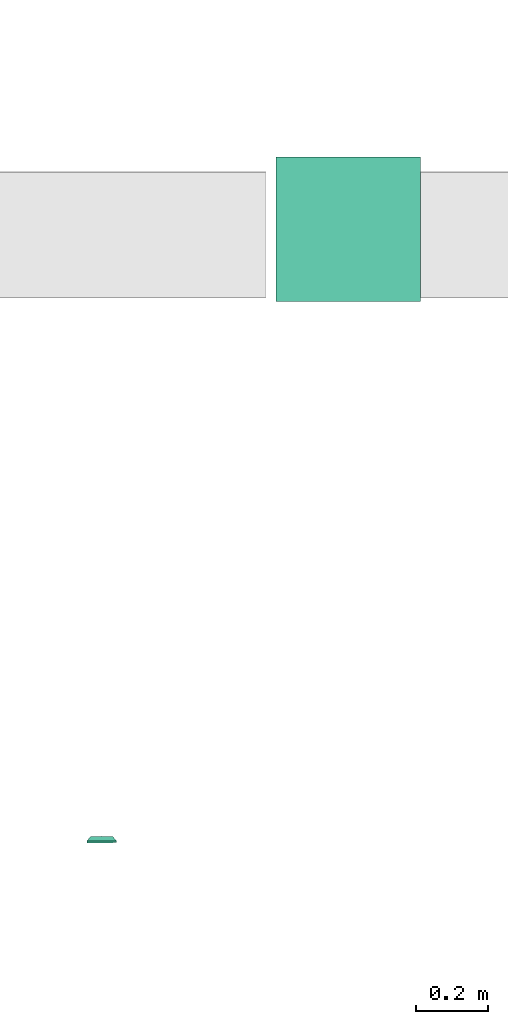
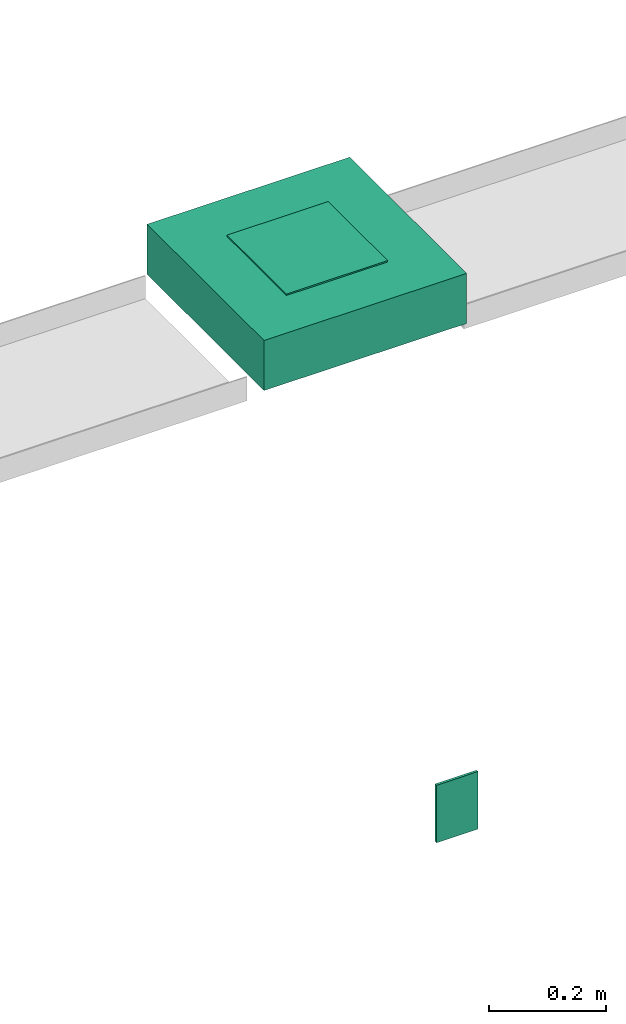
# One storey, part 6 of 24: 2 flow terminals.
"""IFC2X3 building model written with IfcOpenShell, lengths in millimetres."""

from ifc_helpers import new_model, entity, si_unit, converted_unit, derived_unit, direction, frame, origin_with_axes, place, context, subcontext, project, spatial, open_shell, surface_model, source, transform, mapped, type_object, element, save


model = new_model("IFC2X3")

# Units and contexts
model_context = context("Model", 3, precision=0.01, world=frame((0.0, 4.29681676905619e-09, 0.0)), true_north=direction((4.01073788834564e-13, 1.0)))
plan_context = context("Plan", 3, precision=0.01, world=frame((0.0, 4.29681676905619e-09, 0.0)), true_north=direction((4.01073788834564e-13, 1.0)))
body_context = subcontext(model_context, "Body", "Model", "MODEL_VIEW")
ifc_project = project(units=[converted_unit("PLANEANGLEUNIT", "DEGREE", entity("IfcPositiveLengthMeasure", 0.0174532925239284), si_unit("PLANEANGLEUNIT", "RADIAN"), dimensions=[0, 0, 0, 0, 0, 0, 0]), si_unit("AREAUNIT", "SQUARE_METRE"), si_unit("LENGTHUNIT", "METRE", prefix="MILLI"), si_unit("MASSUNIT", "GRAM", prefix="KILO"), si_unit("POWERUNIT", "WATT"), si_unit("PRESSUREUNIT", "PASCAL"), si_unit("FORCEUNIT", "NEWTON", prefix="KILO"), si_unit("ELECTRICVOLTAGEUNIT", "VOLT"), si_unit("ELECTRICCURRENTUNIT", "AMPERE"), si_unit("THERMODYNAMICTEMPERATUREUNIT", "DEGREE_CELSIUS"), si_unit("TIMEUNIT", "SECOND"), si_unit("VOLUMEUNIT", "CUBIC_METRE"), derived_unit("LINEARVELOCITYUNIT", [(si_unit("LENGTHUNIT", "METRE"), 1), (si_unit("TIMEUNIT", "SECOND"), -1)]), derived_unit("VOLUMETRICFLOWRATEUNIT", [(si_unit("VOLUMEUNIT", "CUBIC_METRE"), 1), (si_unit("TIMEUNIT", "SECOND"), -1)]), derived_unit("THERMALTRANSMITTANCEUNIT", [(si_unit("POWERUNIT", "WATT"), 1), (si_unit("THERMODYNAMICTEMPERATUREUNIT", "KELVIN"), -1), (si_unit("AREAUNIT", "SQUARE_METRE"), -1)]), derived_unit("SOUNDPRESSUREUNIT", [(si_unit("PRESSUREUNIT", "PASCAL"), 1)])], contexts=[model_context, plan_context])

# Site, building, storey
site_placement = place(None, frame((0.0, -4.29681676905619e-09, 0.0), z_axis=(0.0, 0.0, 1.0), x_axis=(1.0, 0.0, 0.0)))
site = spatial("IfcSite", under=ifc_project, at=site_placement, Name="ENGM", CompositionType="ELEMENT")
building_placement = place(site_placement, frame((0.0, 4.29681676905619e-09, 0.0), z_axis=(0.0, 0.0, 1.0), x_axis=(1.0, 0.0, 0.0)))
building = spatial("IfcBuilding", under=site, at=building_placement, Name="TH", CompositionType="ELEMENT")
storey_placement = place(building_placement, frame((0.0, 0.0, 210200.0), z_axis=(0.0, 0.0, 1.0), x_axis=(1.0, 0.0, 0.0)))
storey = spatial("IfcBuildingStorey", under=building, at=storey_placement, Name="Nivå F - 0,7 m", CompositionType="ELEMENT", Elevation=210200.0)

# Flow terminals
electric_appliance_type = type_object("IfcElectricApplianceType", Name="OTHER-EE-POWER-BALANCED-DUMMY", PredefinedType="NOTDEFINED")
shared_shape_1 = source(origin_with_axes(), body_context, "Body", "SurfaceModel", [
    surface_model("IfcShellBasedSurfaceModel", [(199.96, -199.96, -8.96812), (199.96, 200.0, -8.96812), (-200.0, 200.0, -8.96812), (-200.0, -199.96, -8.96812), (-200.0, -199.96, -108.96812), (-200.0, 200.0, -108.96812), (199.96, -199.96, -108.96812), (199.96, 200.0, -108.96812), (99.91278, -102.96181, -1.48406), (99.91278, 100.0, -1.48406), (-100.0, -102.96181, -1.48406), (-100.0, 100.0, -1.48406), (-100.0, -102.96181, -4.48406), (-100.0, 100.0, -4.48406), (99.91278, 100.0, -4.48406), (99.91278, -102.96181, -4.48406), (199.96, -199.96, -4.48406), (199.96, 200.0, -4.48406), (-200.0, 200.0, -4.48406), (-200.0, -199.96, -4.48406), (-200.0, -199.96, -104.48406), (-200.0, 200.0, -104.48406), (199.96, -199.96, -104.48406), (199.96, 200.0, -104.48406)], [open_shell([[[0, 1, 2]], [[2, 3, 0]], [[4, 5, 6]], [[7, 6, 5]], [[2, 1, 7]], [[7, 5, 2]], [[3, 2, 5]], [[5, 4, 3]], [[0, 3, 4]], [[4, 6, 0]], [[1, 0, 6]], [[6, 7, 1]], [[8, 9, 10]], [[11, 10, 9]], [[12, 13, 14]], [[14, 15, 12]], [[11, 9, 14]], [[14, 13, 11]], [[10, 11, 13]], [[13, 12, 10]], [[8, 10, 12]], [[12, 15, 8]], [[9, 8, 15]], [[15, 14, 9]], [[16, 17, 18]], [[18, 19, 16]], [[20, 21, 22]], [[23, 22, 21]], [[18, 17, 23]], [[23, 21, 18]], [[19, 18, 21]], [[21, 20, 19]], [[16, 19, 20]], [[20, 22, 16]], [[17, 16, 22]], [[22, 23, 17]]])]),
])
flow_terminal_1_placement = place(storey_placement, frame((896507.89, 482161.819, 1.5), z_axis=(0.0, 0.0, 1.0), x_axis=(1.0, 0.0, 0.0)))
element("IfcFlowTerminal", 1, at=flow_terminal_1_placement, inside=storey, type_object=electric_appliance_type, Name="OTHER-EE-POWER-BALANCED-DUMMY", context=body_context, shape_type="MappedRepresentation", body=[
    mapped(shared_shape_1, transform((0.0, 0.0, 0.0), scale=1.0)),
])
outlet_type = type_object("IfcOutletType", Name="Jordet-topolet-2-veis-m_boks", PredefinedType="POWEROUTLET")
shared_shape_2 = source(origin_with_axes(), body_context, "Body", "SurfaceModel", [
    surface_model("IfcShellBasedSurfaceModel", [(-0.5, 17.924, -6.7222), (-0.5, 13.06676, -7.5222), (-0.5, 13.06676, -6.7222), (-0.5, 18.42991, -6.09229), (-0.5, 17.73274, -6.544), (-0.5, 18.9533, -6.99882), (-0.5, 19.0222, -7.5222), (-0.5, 18.75128, -6.5111), (-0.5, 17.50795, -6.41055), (-0.5, 18.0111, -5.77092), (-0.5, 5.0, -6.3), (-0.5, 17.0, -5.5), (-0.5, 17.0, -6.3), (-0.5, 17.25992, -6.32796), (-0.5, 17.52338, -5.56891), (-0.5, 5.0, -5.5), (-0.5, 17.0, -44.5), (-0.5, 5.0, -44.5), (-0.5, 5.0, -43.7), (-0.5, 17.0, -43.7), (-0.5, 17.25471, -43.67288), (-0.5, 17.49801, -43.59276), (-0.5, 18.00498, -44.23072), (-0.5, 17.52021, -44.43151), (-0.5, 17.71899, -43.46321), (-0.5, 18.42125, -43.9113), (-0.5, 17.90774, -43.29004), (-0.5, 13.03378, -43.29004), (-0.5, 13.03378, -42.49005), (-0.5, 18.74067, -43.49502), (-0.5, 18.94147, -43.01026), (-0.5, 19.00995, -42.49005), (0.5, 17.0, -5.5), (0.5, 5.0, -5.5), (0.5, 5.0, -6.3), (0.5, 17.0, -6.3), (0.5, 17.25992, -6.32796), (0.5, 17.50795, -6.41055), (0.5, 18.0111, -5.77092), (0.5, 17.52338, -5.56891), (0.5, 17.73274, -6.544), (0.5, 18.42991, -6.09229), (0.5, 17.924, -6.7222), (0.5, 13.06676, -6.7222), (0.5, 13.06676, -7.5222), (0.5, 18.75128, -6.5111), (0.5, 18.9533, -6.99882), (0.5, 19.0222, -7.5222), (0.5, 17.90774, -43.29004), (0.5, 13.03378, -42.49005), (0.5, 13.03378, -43.29004), (0.5, 18.42125, -43.9113), (0.5, 17.71899, -43.46321), (0.5, 18.94147, -43.01026), (0.5, 19.00995, -42.49005), (0.5, 18.74067, -43.49502), (0.5, 17.49801, -43.59276), (0.5, 18.00498, -44.23072), (0.5, 5.0, -43.7), (0.5, 17.0, -44.5), (0.5, 17.0, -43.7), (0.5, 17.25471, -43.67288), (0.5, 17.52021, -44.43151), (0.5, 5.0, -44.5), (-0.5, 17.90774, 6.70995), (-0.5, 18.74067, 6.50498), (-0.5, 18.42125, 6.0887), (-0.5, 17.71899, 6.53679), (-0.5, 18.00498, 5.76928), (-0.5, 17.49801, 6.40724), (-0.5, 19.00995, 7.50995), (-0.5, 18.94147, 6.98974), (-0.5, 13.03378, 7.50995), (-0.5, 17.52021, 5.56849), (-0.5, 17.0, 5.5), (-0.5, 17.0, 6.3), (-0.5, 17.25471, 6.32711), (-0.5, 5.0, 5.5), (-0.5, 5.0, 6.3), (-0.5, 13.03378, 6.70995), (0.5, 5.0, 6.3), (0.5, 5.0, 5.5), (0.5, 17.0, 6.3), (0.5, 17.0, 5.5), (0.5, 17.25471, 6.32711), (0.5, 17.90774, 6.70995), (0.5, 13.03378, 7.50995), (0.5, 13.03378, 6.70995), (0.5, 17.52021, 5.56849), (0.5, 17.49801, 6.40724), (0.5, 18.00498, 5.76928), (0.5, 17.71899, 6.53679), (0.5, 18.42125, 6.0887), (0.5, 18.74067, 6.50498), (0.5, 18.94147, 6.98974), (0.5, 19.00995, 7.50995), (-0.5, 17.924, 43.2778), (-0.5, 13.06676, 42.4778), (-0.5, 13.06676, 43.2778), (-0.5, 18.42991, 43.90771), (-0.5, 17.73274, 43.456), (-0.5, 18.9533, 43.00118), (-0.5, 19.0222, 42.4778), (-0.5, 18.75128, 43.4889), (-0.5, 17.50795, 43.58945), (-0.5, 18.0111, 44.22908), (-0.5, 17.0, 44.5), (-0.5, 17.0, 43.7), (-0.5, 5.0, 44.5), (-0.5, 17.25992, 43.67204), (-0.5, 17.52338, 44.4311), (-0.5, 5.0, 43.7), (0.5, 5.0, 44.5), (0.5, 17.0, 43.7), (0.5, 17.0, 44.5), (0.5, 5.0, 43.7), (0.5, 17.25992, 43.67204), (0.5, 17.50795, 43.58945), (0.5, 18.0111, 44.22908), (0.5, 17.52338, 44.4311), (0.5, 17.73274, 43.456), (0.5, 18.42991, 43.90771), (0.5, 17.924, 43.2778), (0.5, 13.06676, 43.2778), (0.5, 13.06676, 42.4778), (0.5, 18.75128, 43.4889), (0.5, 18.9533, 43.00118), (0.5, 19.0222, 42.4778), (7.79776, 5.0, -26.27146), (7.45708, 5.0, -25.0), (7.54372, 5.0, -25.65816), (8.72854, 5.0, -27.20224), (8.20188, 5.0, -26.79812), (10.65816, 5.0, -27.45628), (9.34184, 5.0, -27.45628), (8.20188, 5.0, -23.20188), (7.54372, 5.0, -24.34184), (7.79776, 5.0, -23.72854), (9.34184, 5.0, -22.54373), (8.72854, 5.0, -22.79776), (10.0, 5.0, -27.54292), (11.27146, 5.0, -27.20224), (11.79812, 5.0, -26.79812), (12.45628, 5.0, -25.65816), (12.45628, 5.0, -24.34184), (12.20224, 5.0, -26.27146), (12.54292, 5.0, -25.0), (10.0, 5.0, -22.45708), (11.27146, 5.0, -22.79776), (10.65816, 5.0, -22.54373), (11.79812, 5.0, -23.20188), (12.20224, 5.0, -23.72854), (-12.20258, 5.0, -26.27166), (-12.45666, 5.0, -24.34174), (-12.45666, 5.0, -25.65826), (-11.27166, 5.0, -27.20258), (-11.7984, 5.0, -26.7984), (-10.65826, 5.0, -22.54334), (-7.45668, 5.0, -25.0), (-10.65826, 5.0, -27.45666), (-9.34174, 5.0, -27.45666), (-12.20258, 5.0, -23.72834), (-12.54332, 5.0, -25.0), (-11.27166, 5.0, -22.79742), (-11.7984, 5.0, -23.2016), (-10.0, 5.0, -27.54332), (-8.72834, 5.0, -27.20258), (-8.2016, 5.0, -26.7984), (-7.54334, 5.0, -25.65826), (-7.79742, 5.0, -26.27166), (-7.54334, 5.0, -24.34174), (-9.34174, 5.0, -22.54334), (-8.2016, 5.0, -23.2016), (-8.72834, 5.0, -22.79742), (-10.0, 5.0, -22.45668), (-7.79742, 5.0, -23.72834), (12.45628, 5.5, -25.65816), (12.45628, 5.5, -24.34184), (12.54292, 5.5, -25.0), (11.79812, 5.5, -26.79812), (12.20224, 5.5, -26.27146), (11.27146, 5.5, -27.20224), (10.65816, 5.5, -27.45628), (11.79812, 5.5, -23.20188), (12.20224, 5.5, -23.72854), (11.27146, 5.5, -22.79776), (10.0, 5.5, -22.45708), (10.65816, 5.5, -22.54373), (8.72854, 5.5, -27.20224), (9.34184, 5.5, -22.54373), (9.34184, 5.5, -27.45628), (8.20188, 5.5, -23.20188), (7.79776, 5.5, -26.27146), (7.45708, 5.5, -25.0), (8.20188, 5.5, -26.79812), (7.54372, 5.5, -25.65816), (8.72854, 5.5, -22.79776), (7.54372, 5.5, -24.34184), (7.79776, 5.5, -23.72854), (10.0, 5.5, -27.54292), (-8.2016, 5.5, -26.7984), (-7.45668, 5.5, -25.0), (-7.54334, 5.5, -25.65826), (-7.79742, 5.5, -26.27166), (-10.65826, 5.5, -27.45666), (-8.72834, 5.5, -27.20258), (-7.79742, 5.5, -23.72834), (-12.20258, 5.5, -26.27166), (-8.2016, 5.5, -23.2016), (-7.54334, 5.5, -24.34174), (-9.34174, 5.5, -22.54334), (-8.72834, 5.5, -22.79742), (-10.65826, 5.5, -22.54334), (-10.0, 5.5, -22.45668), (-10.0, 5.5, -27.54332), (-9.34174, 5.5, -27.45666), (-11.27166, 5.5, -27.20258), (-11.7984, 5.5, -26.7984), (-12.45666, 5.5, -24.34174), (-12.45666, 5.5, -25.65826), (-11.27166, 5.5, -22.79742), (-12.20258, 5.5, -23.72834), (-11.7984, 5.5, -23.2016), (-12.54332, 5.5, -25.0), (7.85373, 5.0, 23.76085), (7.5217, 5.0, 25.0), (7.60615, 5.0, 24.35857), (8.76085, 5.0, 22.85373), (8.24758, 5.0, 23.24758), (9.35857, 5.0, 22.60615), (10.0, 5.0, 22.5217), (8.24758, 5.0, 26.75242), (7.60615, 5.0, 25.64143), (7.85373, 5.0, 26.23915), (8.76085, 5.0, 27.14627), (10.0, 5.0, 27.4783), (9.35857, 5.0, 27.39385), (11.23915, 5.0, 22.85373), (12.39385, 5.0, 24.35857), (11.75242, 5.0, 23.24758), (11.75242, 5.0, 26.75242), (12.14627, 5.0, 23.76085), (12.4783, 5.0, 25.0), (12.14627, 5.0, 26.23915), (11.23915, 5.0, 27.14627), (10.64143, 5.0, 27.39385), (12.39385, 5.0, 25.64143), (10.64143, 5.0, 22.60615), (-12.12391, 5.0, 23.77376), (-12.45249, 5.0, 25.0), (-12.36892, 5.0, 24.36525), (-11.73417, 5.0, 23.26583), (-8.77376, 5.0, 27.12391), (-10.63475, 5.0, 27.36892), (-11.22624, 5.0, 22.87609), (-10.63475, 5.0, 22.63108), (-7.87609, 5.0, 23.77376), (-12.12391, 5.0, 26.22624), (-12.36892, 5.0, 25.63475), (-11.22624, 5.0, 27.12391), (-11.73417, 5.0, 26.73417), (-10.0, 5.0, 22.54752), (-9.36525, 5.0, 22.63108), (-8.77376, 5.0, 22.87609), (-8.26583, 5.0, 23.26583), (-7.63108, 5.0, 25.63475), (-7.63108, 5.0, 24.36525), (-7.54751, 5.0, 25.0), (-9.36525, 5.0, 27.36892), (-10.0, 5.0, 27.45248), (-8.26583, 5.0, 26.73417), (-7.87609, 5.0, 26.22624), (12.39385, 5.5, 24.35857), (12.14627, 5.5, 26.23915), (12.4783, 5.5, 25.0), (11.75242, 5.5, 23.24758), (12.14627, 5.5, 23.76085), (11.75242, 5.5, 26.75242), (11.23915, 5.5, 22.85373), (8.76085, 5.5, 22.85373), (12.39385, 5.5, 25.64143), (11.23915, 5.5, 27.14627), (10.0, 5.5, 27.4783), (10.64143, 5.5, 27.39385), (10.64143, 5.5, 22.60615), (10.0, 5.5, 22.5217), (9.35857, 5.5, 22.60615), (8.76085, 5.5, 27.14627), (8.24758, 5.5, 26.75242), (7.85373, 5.5, 23.76085), (8.24758, 5.5, 23.24758), (7.5217, 5.5, 25.0), (7.60615, 5.5, 24.35857), (9.35857, 5.5, 27.39385), (7.60615, 5.5, 25.64143), (7.85373, 5.5, 26.23915), (-7.63108, 5.5, 24.36525), (-7.63108, 5.5, 25.63475), (-7.54751, 5.5, 25.0), (-8.26583, 5.5, 23.26583), (-7.87609, 5.5, 23.77376), (-11.22624, 5.5, 22.87609), (-8.77376, 5.5, 22.87609), (-8.26583, 5.5, 26.73417), (-7.87609, 5.5, 26.22624), (-8.77376, 5.5, 27.12391), (-10.0, 5.5, 27.45248), (-9.36525, 5.5, 27.36892), (-10.63475, 5.5, 27.36892), (-10.0, 5.5, 22.54752), (-9.36525, 5.5, 22.63108), (-10.63475, 5.5, 22.63108), (-12.45249, 5.5, 25.0), (-11.73417, 5.5, 23.26583), (-12.12391, 5.5, 23.77376), (-12.36892, 5.5, 24.36525), (-11.22624, 5.5, 27.12391), (-12.12391, 5.5, 26.22624), (-11.73417, 5.5, 26.73417), (-12.36892, 5.5, 25.63475), (41.0, 5.0, -60.0), (19.31852, 5.0, -30.17638), (17.32051, 5.0, -35.0), (20.0, 5.0, -25.0), (14.14214, 5.0, -39.14214), (10.0, 5.0, -42.32051), (5.17638, 5.0, -44.31852), (0.0, 5.0, -45.0), (19.31852, 5.0, -19.82362), (17.32051, 5.0, 15.0), (17.32051, 5.0, -15.0), (10.0, 5.0, -7.67949), (14.14214, 5.0, -10.85786), (10.0, 5.0, 7.67949), (0.0, 5.0, -5.0), (5.17638, 5.0, -5.68148), (5.17638, 5.0, 5.68148), (14.14214, 5.0, 10.85786), (19.31852, 5.0, 19.82362), (-5.17638, 5.0, -44.31852), (-10.0, 5.0, -42.32051), (-41.0, 5.0, -60.0), (-14.14214, 5.0, -39.14214), (-17.32051, 5.0, -35.0), (-19.31852, 5.0, -30.17638), (-10.0, 5.0, -7.67949), (-5.17638, 5.0, -5.68148), (-5.17638, 5.0, 5.68148), (-14.14214, 5.0, -10.85786), (-10.0, 5.0, 7.67949), (-20.0, 5.0, -25.0), (-19.31852, 5.0, -19.82362), (-19.31852, 5.0, 19.82362), (-14.14214, 5.0, 10.85786), (-17.32051, 5.0, -15.0), (-17.32051, 5.0, 15.0), (0.0, 5.0, 5.0), (20.0, 5.0, 25.0), (41.0, 5.0, 60.0), (19.31852, 5.0, 30.17638), (17.32051, 5.0, 35.0), (14.14214, 5.0, 39.14214), (5.17638, 5.0, 44.31852), (10.0, 5.0, 42.32051), (0.0, 5.0, 45.0), (-20.0, 5.0, 25.0), (-41.0, 5.0, 60.0), (-5.17638, 5.0, 44.31852), (-10.0, 5.0, 42.32051), (-19.31852, 5.0, 30.17638), (-17.32051, 5.0, 35.0), (-14.14214, 5.0, 39.14214), (-31.0, 17.0, -50.0), (-19.31852, 17.0, -30.17638), (-17.32051, 17.0, -35.0), (-20.0, 17.0, -25.0), (-14.14214, 17.0, -39.14214), (-10.0, 17.0, -42.32051), (-5.17638, 17.0, -44.31852), (0.0, 17.0, -45.0), (-19.31852, 17.0, -19.82362), (-17.32051, 17.0, -15.0), (-17.32051, 17.0, 15.0), (-10.0, 17.0, -7.67949), (-14.14214, 17.0, -10.85786), (-10.0, 17.0, 7.67949), (0.0, 17.0, -5.0), (-5.17638, 17.0, -5.68148), (-5.17638, 17.0, 5.68148), (-14.14214, 17.0, 10.85786), (-19.31852, 17.0, 19.82362), (5.17638, 17.0, -44.31852), (10.0, 17.0, -42.32051), (31.0, 17.0, -50.0), (14.14214, 17.0, -39.14214), (17.32051, 17.0, -35.0), (19.31852, 17.0, -30.17638), (10.0, 17.0, -7.67949), (5.17638, 17.0, -5.68148), (5.17638, 17.0, 5.68148), (14.14214, 17.0, -10.85786), (10.0, 17.0, 7.67949), (20.0, 17.0, -25.0), (19.31852, 17.0, -19.82362), (17.32051, 17.0, -15.0), (17.32051, 17.0, 15.0), (14.14214, 17.0, 10.85786), (19.31852, 17.0, 19.82362), (0.0, 17.0, 5.0), (-20.0, 17.0, 25.0), (-31.0, 17.0, 50.0), (-19.31852, 17.0, 30.17638), (-17.32051, 17.0, 35.0), (-14.14214, 17.0, 39.14214), (-5.17638, 17.0, 44.31852), (-10.0, 17.0, 42.32051), (0.0, 17.0, 45.0), (20.0, 17.0, 25.0), (31.0, 17.0, 50.0), (5.17638, 17.0, 44.31852), (10.0, 17.0, 42.32051), (19.31852, 17.0, 30.17638), (17.32051, 17.0, 35.0), (14.14214, 17.0, 39.14214), (-41.0, 0.0, 60.0), (-41.0, 0.0, -60.0), (41.0, 0.0, 60.0), (41.0, 0.0, -60.0)], [open_shell([[[0, 1, 2]], [[3, 0, 4]], [[5, 6, 0]], [[0, 7, 5]], [[3, 7, 0]], [[6, 1, 0]], [[4, 8, 9]], [[10, 11, 12]], [[12, 11, 13]], [[8, 13, 14]], [[4, 9, 3]], [[9, 8, 14]], [[13, 11, 14]], [[11, 10, 15]], [[16, 17, 18]], [[18, 19, 16]], [[16, 19, 20]], [[21, 22, 23]], [[20, 21, 23]], [[22, 24, 25]], [[23, 16, 20]], [[26, 25, 24]], [[27, 28, 26]], [[29, 26, 30]], [[29, 25, 26]], [[31, 30, 26]], [[26, 28, 31]], [[24, 22, 21]], [[32, 33, 34]], [[34, 35, 32]], [[32, 35, 36]], [[37, 38, 39]], [[36, 37, 39]], [[38, 40, 41]], [[39, 32, 36]], [[42, 41, 40]], [[43, 44, 42]], [[45, 42, 46]], [[45, 41, 42]], [[47, 46, 42]], [[42, 44, 47]], [[40, 38, 37]], [[48, 49, 50]], [[51, 48, 52]], [[53, 54, 48]], [[48, 55, 53]], [[51, 55, 48]], [[54, 49, 48]], [[52, 56, 57]], [[58, 59, 60]], [[60, 59, 61]], [[56, 61, 62]], [[52, 57, 51]], [[57, 56, 62]], [[61, 59, 62]], [[59, 58, 63]], [[14, 32, 39]], [[9, 39, 38]], [[11, 32, 14]], [[9, 14, 39]], [[3, 9, 38]], [[38, 41, 3]], [[7, 41, 45]], [[5, 45, 46]], [[7, 45, 5]], [[6, 5, 46]], [[47, 6, 46]], [[41, 7, 3]], [[1, 6, 47]], [[47, 44, 1]], [[2, 1, 44]], [[44, 43, 2]], [[0, 2, 42]], [[43, 42, 2]], [[42, 4, 0]], [[42, 40, 4]], [[8, 4, 40]], [[37, 8, 40]], [[36, 12, 13]], [[37, 36, 13]], [[35, 12, 36]], [[8, 37, 13]], [[10, 12, 35]], [[35, 34, 10]], [[15, 10, 34]], [[34, 33, 15]], [[11, 15, 32]], [[33, 32, 15]], [[17, 16, 59]], [[59, 63, 17]], [[18, 17, 63]], [[63, 58, 18]], [[19, 18, 60]], [[58, 60, 18]], [[60, 20, 19]], [[60, 61, 20]], [[21, 20, 61]], [[56, 21, 61]], [[52, 26, 24]], [[56, 52, 24]], [[48, 26, 52]], [[21, 56, 24]], [[27, 26, 48]], [[48, 50, 27]], [[28, 27, 50]], [[50, 49, 28]], [[31, 28, 49]], [[49, 54, 31]], [[30, 54, 53]], [[29, 53, 55]], [[31, 54, 30]], [[29, 30, 53]], [[25, 29, 55]], [[55, 51, 25]], [[22, 51, 57]], [[23, 57, 62]], [[22, 57, 23]], [[16, 23, 62]], [[59, 16, 62]], [[51, 22, 25]], [[64, 65, 66]], [[67, 66, 68]], [[69, 67, 68]], [[70, 71, 64]], [[64, 71, 65]], [[66, 67, 64]], [[70, 64, 72]], [[68, 73, 69]], [[74, 75, 76]], [[74, 77, 75]], [[77, 78, 75]], [[69, 73, 76]], [[79, 72, 64]], [[76, 73, 74]], [[80, 81, 82]], [[82, 83, 84]], [[83, 82, 81]], [[85, 86, 87]], [[88, 89, 84]], [[84, 83, 88]], [[89, 90, 91]], [[90, 92, 91]], [[93, 85, 92]], [[91, 92, 85]], [[94, 95, 85]], [[93, 94, 85]], [[85, 95, 86]], [[90, 89, 88]], [[77, 74, 83]], [[83, 81, 77]], [[78, 77, 81]], [[81, 80, 78]], [[75, 78, 82]], [[80, 82, 78]], [[82, 76, 75]], [[82, 84, 76]], [[69, 76, 84]], [[89, 69, 84]], [[91, 64, 67]], [[89, 91, 67]], [[85, 64, 91]], [[69, 89, 67]], [[79, 64, 85]], [[85, 87, 79]], [[72, 79, 87]], [[87, 86, 72]], [[70, 72, 86]], [[86, 95, 70]], [[71, 95, 94]], [[65, 94, 93]], [[70, 95, 71]], [[65, 71, 94]], [[66, 65, 93]], [[93, 92, 66]], [[68, 92, 90]], [[73, 90, 88]], [[68, 90, 73]], [[74, 73, 88]], [[83, 74, 88]], [[92, 68, 66]], [[96, 97, 98]], [[99, 96, 100]], [[101, 102, 96]], [[96, 103, 101]], [[99, 103, 96]], [[102, 97, 96]], [[100, 104, 105]], [[106, 107, 108]], [[107, 106, 109]], [[104, 109, 110]], [[100, 105, 99]], [[105, 104, 110]], [[109, 106, 110]], [[111, 108, 107]], [[112, 113, 114]], [[115, 113, 112]], [[114, 113, 116]], [[117, 118, 119]], [[116, 117, 119]], [[118, 120, 121]], [[119, 114, 116]], [[122, 121, 120]], [[123, 124, 122]], [[125, 122, 126]], [[125, 121, 122]], [[127, 126, 122]], [[122, 124, 127]], [[120, 118, 117]], [[110, 114, 119]], [[105, 119, 118]], [[106, 114, 110]], [[105, 110, 119]], [[99, 105, 118]], [[118, 121, 99]], [[103, 121, 125]], [[101, 125, 126]], [[103, 125, 101]], [[102, 101, 126]], [[127, 102, 126]], [[121, 103, 99]], [[97, 102, 127]], [[127, 124, 97]], [[98, 97, 124]], [[124, 123, 98]], [[96, 98, 122]], [[123, 122, 98]], [[122, 100, 96]], [[122, 120, 100]], [[104, 100, 120]], [[117, 104, 120]], [[116, 107, 109]], [[117, 116, 109]], [[113, 107, 116]], [[104, 117, 109]], [[111, 107, 113]], [[113, 115, 111]], [[108, 111, 115]], [[115, 112, 108]], [[106, 108, 114]], [[112, 114, 108]], [[128, 129, 130]], [[131, 128, 132]], [[133, 131, 134]], [[129, 128, 131]], [[131, 133, 135]], [[136, 135, 137]], [[136, 129, 131]], [[135, 138, 139]], [[135, 136, 131]], [[133, 138, 135]], [[133, 134, 140]], [[133, 141, 142]], [[133, 142, 143]], [[133, 143, 144]], [[143, 142, 145]], [[144, 143, 146]], [[147, 148, 149]], [[138, 148, 147]], [[150, 144, 151]], [[144, 150, 148]], [[133, 144, 148]], [[148, 138, 133]], [[152, 153, 154]], [[155, 152, 156]], [[157, 152, 158]], [[159, 152, 155]], [[152, 159, 160]], [[153, 157, 161]], [[153, 162, 154]], [[161, 163, 164]], [[163, 161, 157]], [[152, 157, 153]], [[159, 165, 160]], [[160, 166, 167]], [[160, 167, 168]], [[158, 152, 168]], [[168, 167, 169]], [[170, 157, 158]], [[171, 172, 173]], [[174, 157, 171]], [[172, 170, 175]], [[170, 172, 171]], [[170, 171, 157]], [[160, 168, 152]], [[176, 177, 178]], [[179, 176, 180]], [[179, 181, 182]], [[179, 182, 176]], [[177, 176, 182]], [[177, 183, 184]], [[183, 177, 185]], [[185, 186, 187]], [[188, 185, 177]], [[185, 189, 186]], [[188, 177, 182]], [[190, 188, 182]], [[185, 188, 191]], [[188, 192, 193]], [[192, 188, 194]], [[195, 193, 192]], [[189, 191, 196]], [[185, 191, 189]], [[191, 197, 198]], [[191, 188, 197]], [[193, 197, 188]], [[199, 190, 182]], [[200, 201, 202]], [[200, 202, 203]], [[204, 200, 205]], [[201, 200, 206]], [[207, 206, 200]], [[206, 207, 208]], [[206, 209, 201]], [[208, 210, 211]], [[208, 212, 210]], [[212, 213, 210]], [[214, 205, 215]], [[200, 204, 207]], [[207, 204, 216]], [[208, 207, 212]], [[207, 216, 217]], [[218, 207, 219]], [[220, 221, 222]], [[221, 220, 212]], [[212, 218, 221]], [[212, 207, 218]], [[219, 223, 218]], [[204, 205, 214]], [[189, 138, 186]], [[196, 139, 189]], [[191, 198, 137]], [[191, 135, 196]], [[136, 198, 197]], [[189, 139, 138]], [[138, 147, 186]], [[136, 137, 198]], [[135, 191, 137]], [[135, 139, 196]], [[129, 136, 197]], [[197, 193, 129]], [[130, 193, 195]], [[192, 128, 195]], [[131, 194, 188]], [[194, 132, 192]], [[190, 134, 188]], [[192, 132, 128]], [[128, 130, 195]], [[140, 134, 190]], [[131, 188, 134]], [[131, 132, 194]], [[199, 140, 190]], [[193, 130, 129]], [[182, 133, 199]], [[181, 141, 182]], [[145, 179, 180]], [[179, 142, 181]], [[176, 143, 180]], [[182, 141, 133]], [[133, 140, 199]], [[143, 145, 180]], [[142, 179, 145]], [[142, 141, 181]], [[146, 143, 176]], [[176, 178, 146]], [[151, 177, 184]], [[144, 178, 177]], [[148, 183, 185]], [[150, 184, 183]], [[185, 187, 149]], [[184, 150, 151]], [[151, 144, 177]], [[147, 149, 187]], [[148, 185, 149]], [[148, 150, 183]], [[186, 147, 187]], [[178, 144, 146]], [[212, 174, 213]], [[220, 157, 212]], [[164, 222, 221]], [[220, 222, 163]], [[161, 221, 218]], [[220, 163, 157]], [[157, 174, 212]], [[153, 223, 162]], [[153, 161, 218]], [[164, 221, 161]], [[164, 163, 222]], [[223, 153, 218]], [[207, 154, 219]], [[217, 152, 207]], [[155, 216, 204]], [[217, 216, 156]], [[159, 204, 214]], [[219, 154, 162]], [[207, 152, 154]], [[159, 155, 204]], [[152, 217, 156]], [[155, 156, 216]], [[165, 159, 214]], [[219, 162, 223]], [[215, 165, 214]], [[205, 160, 215]], [[167, 200, 203]], [[205, 200, 166]], [[169, 203, 202]], [[205, 166, 160]], [[160, 165, 215]], [[168, 201, 158]], [[168, 169, 202]], [[167, 203, 169]], [[167, 166, 200]], [[201, 168, 202]], [[206, 170, 209]], [[208, 175, 206]], [[173, 211, 210]], [[208, 211, 172]], [[171, 210, 213]], [[206, 175, 170]], [[170, 158, 209]], [[211, 173, 172]], [[208, 172, 175]], [[171, 173, 210]], [[213, 174, 171]], [[209, 158, 201]], [[224, 225, 226]], [[227, 224, 228]], [[227, 229, 230]], [[231, 224, 227]], [[231, 227, 230]], [[232, 231, 233]], [[231, 232, 225]], [[224, 231, 225]], [[230, 234, 231]], [[234, 235, 236]], [[234, 230, 235]], [[235, 230, 237]], [[238, 237, 239]], [[237, 238, 240]], [[238, 239, 241]], [[242, 243, 238]], [[235, 244, 245]], [[244, 235, 240]], [[238, 243, 240]], [[240, 235, 237]], [[246, 243, 242]], [[237, 230, 247]], [[248, 249, 250]], [[251, 249, 248]], [[252, 253, 254]], [[251, 254, 253]], [[255, 256, 254]], [[249, 257, 258]], [[249, 251, 257]], [[257, 259, 260]], [[259, 257, 253]], [[251, 253, 257]], [[255, 261, 262]], [[255, 263, 256]], [[256, 263, 264]], [[265, 256, 266]], [[252, 254, 256]], [[267, 265, 266]], [[253, 268, 269]], [[252, 268, 253]], [[270, 265, 271]], [[265, 270, 252]], [[256, 265, 252]], [[255, 262, 263]], [[272, 273, 274]], [[275, 272, 276]], [[277, 272, 278]], [[278, 272, 275]], [[278, 279, 277]], [[274, 273, 280]], [[272, 277, 273]], [[281, 282, 283]], [[282, 281, 277]], [[277, 279, 282]], [[278, 284, 285]], [[285, 286, 279]], [[282, 279, 287]], [[288, 279, 289]], [[289, 279, 290]], [[291, 289, 292]], [[279, 288, 287]], [[293, 282, 287]], [[288, 294, 295]], [[294, 288, 291]], [[291, 288, 289]], [[278, 285, 279]], [[296, 297, 298]], [[299, 296, 300]], [[297, 296, 301]], [[302, 296, 299]], [[301, 296, 302]], [[297, 303, 304]], [[303, 297, 305]], [[305, 306, 307]], [[301, 305, 297]], [[305, 308, 306]], [[309, 302, 310]], [[311, 301, 302]], [[308, 305, 301]], [[312, 313, 314]], [[301, 313, 308]], [[312, 314, 315]], [[316, 317, 318]], [[317, 316, 308]], [[317, 312, 319]], [[317, 308, 313]], [[313, 312, 317]], [[311, 302, 309]], [[293, 236, 282]], [[287, 234, 293]], [[288, 295, 233]], [[288, 231, 287]], [[232, 295, 294]], [[293, 234, 236]], [[236, 235, 282]], [[232, 233, 295]], [[231, 288, 233]], [[231, 234, 287]], [[225, 232, 294]], [[294, 291, 225]], [[226, 291, 292]], [[289, 224, 292]], [[227, 290, 279]], [[290, 228, 289]], [[286, 229, 279]], [[289, 228, 224]], [[224, 226, 292]], [[230, 229, 286]], [[227, 279, 229]], [[227, 228, 290]], [[285, 230, 286]], [[291, 226, 225]], [[284, 247, 285]], [[278, 237, 284]], [[241, 275, 276]], [[278, 275, 239]], [[238, 276, 272]], [[284, 237, 247]], [[247, 230, 285]], [[238, 241, 276]], [[239, 275, 241]], [[239, 237, 278]], [[242, 238, 272]], [[272, 274, 242]], [[280, 246, 274]], [[273, 243, 280]], [[244, 277, 281]], [[273, 277, 240]], [[245, 281, 283]], [[273, 240, 243]], [[243, 246, 280]], [[235, 245, 283]], [[244, 281, 245]], [[244, 240, 277]], [[282, 235, 283]], [[274, 246, 242]], [[308, 269, 306]], [[316, 253, 308]], [[260, 318, 317]], [[316, 318, 259]], [[257, 317, 319]], [[316, 259, 253]], [[253, 269, 308]], [[258, 312, 249]], [[258, 257, 319]], [[260, 317, 257]], [[260, 259, 318]], [[312, 258, 319]], [[314, 250, 315]], [[313, 248, 314]], [[254, 301, 311]], [[313, 301, 251]], [[255, 311, 309]], [[315, 250, 249]], [[314, 248, 250]], [[251, 248, 313]], [[251, 301, 254]], [[255, 254, 311]], [[261, 255, 309]], [[315, 249, 312]], [[310, 261, 309]], [[302, 262, 310]], [[264, 299, 300]], [[302, 299, 263]], [[256, 300, 296]], [[302, 263, 262]], [[262, 261, 310]], [[266, 298, 267]], [[266, 256, 296]], [[264, 300, 256]], [[264, 263, 299]], [[298, 266, 296]], [[304, 265, 297]], [[303, 271, 304]], [[252, 305, 307]], [[303, 305, 270]], [[268, 307, 306]], [[304, 271, 265]], [[265, 267, 297]], [[305, 252, 270]], [[303, 270, 271]], [[268, 252, 307]], [[306, 269, 268]], [[297, 267, 298]], [[320, 321, 322]], [[321, 320, 323]], [[320, 322, 324]], [[325, 326, 320]], [[324, 325, 320]], [[320, 326, 327]], [[328, 323, 320]], [[329, 330, 328]], [[331, 332, 333]], [[334, 335, 336]], [[331, 336, 335]], [[330, 337, 332]], [[328, 320, 338]], [[339, 340, 341]], [[327, 339, 341]], [[341, 342, 343]], [[342, 341, 340]], [[341, 343, 344]], [[327, 341, 320]], [[345, 346, 347]], [[348, 345, 349]], [[344, 350, 341]], [[341, 351, 352]], [[350, 351, 341]], [[348, 353, 354]], [[355, 351, 354]], [[334, 347, 346]], [[329, 337, 330]], [[329, 328, 338]], [[336, 356, 334]], [[333, 336, 331]], [[337, 333, 332]], [[357, 358, 359]], [[358, 357, 338]], [[359, 358, 360]], [[361, 360, 358]], [[362, 363, 358]], [[361, 358, 363]], [[358, 364, 362]], [[320, 358, 338]], [[349, 353, 348]], [[347, 349, 345]], [[352, 365, 366]], [[352, 366, 341]], [[353, 355, 354]], [[367, 364, 366]], [[368, 367, 366]], [[369, 370, 366]], [[371, 366, 370]], [[366, 371, 368]], [[369, 366, 365]], [[364, 358, 366]], [[352, 351, 355]], [[356, 347, 334]], [[372, 373, 374]], [[373, 372, 375]], [[372, 374, 376]], [[377, 378, 372]], [[376, 377, 372]], [[372, 378, 379]], [[380, 375, 372]], [[381, 380, 382]], [[383, 384, 385]], [[386, 387, 388]], [[383, 388, 387]], [[381, 389, 384]], [[372, 390, 380]], [[391, 392, 393]], [[379, 391, 393]], [[393, 394, 395]], [[394, 393, 392]], [[393, 395, 396]], [[379, 393, 372]], [[397, 398, 399]], [[400, 397, 401]], [[396, 402, 393]], [[403, 404, 405]], [[402, 403, 393]], [[400, 406, 404]], [[393, 403, 407]], [[386, 399, 398]], [[382, 389, 381]], [[390, 382, 380]], [[388, 408, 386]], [[385, 388, 383]], [[389, 385, 384]], [[409, 410, 411]], [[410, 409, 390]], [[411, 410, 412]], [[413, 412, 410]], [[414, 415, 410]], [[413, 410, 415]], [[410, 416, 414]], [[390, 372, 410]], [[401, 406, 400]], [[399, 401, 397]], [[407, 417, 418]], [[405, 407, 403]], [[406, 405, 404]], [[419, 416, 418]], [[420, 419, 418]], [[421, 422, 418]], [[423, 418, 422]], [[418, 423, 420]], [[421, 418, 417]], [[416, 410, 418]], [[407, 418, 393]], [[408, 399, 386]], [[341, 372, 393]], [[393, 320, 341]], [[320, 393, 358]], [[418, 358, 393]], [[358, 418, 366]], [[410, 366, 418]], [[366, 410, 372]], [[372, 341, 366]], [[409, 352, 390]], [[390, 355, 382]], [[385, 389, 349]], [[353, 389, 382]], [[388, 385, 347]], [[352, 355, 390]], [[409, 365, 352]], [[385, 349, 347]], [[349, 389, 353]], [[382, 355, 353]], [[388, 347, 356]], [[356, 408, 388]], [[408, 336, 399]], [[399, 333, 401]], [[405, 406, 329]], [[337, 406, 401]], [[407, 405, 338]], [[333, 337, 401]], [[399, 336, 333]], [[407, 338, 357]], [[338, 405, 329]], [[406, 337, 329]], [[407, 357, 417]], [[356, 336, 408]], [[417, 359, 421]], [[421, 360, 422]], [[420, 423, 363]], [[361, 423, 422]], [[419, 420, 362]], [[359, 360, 421]], [[417, 357, 359]], [[420, 363, 362]], [[363, 423, 361]], [[422, 360, 361]], [[419, 362, 364]], [[364, 416, 419]], [[416, 367, 414]], [[414, 368, 415]], [[412, 413, 370]], [[371, 413, 415]], [[411, 412, 369]], [[368, 371, 415]], [[414, 367, 368]], [[411, 369, 365]], [[369, 412, 370]], [[413, 371, 370]], [[411, 365, 409]], [[364, 367, 416]], [[375, 344, 373]], [[373, 343, 374]], [[377, 376, 340]], [[342, 376, 374]], [[378, 377, 339]], [[344, 343, 373]], [[375, 350, 344]], [[377, 340, 339]], [[340, 376, 342]], [[374, 343, 342]], [[378, 339, 327]], [[327, 379, 378]], [[379, 326, 391]], [[391, 325, 392]], [[395, 394, 322]], [[324, 394, 392]], [[396, 395, 321]], [[325, 324, 392]], [[391, 326, 325]], [[396, 321, 323]], [[321, 395, 322]], [[394, 324, 322]], [[396, 323, 402]], [[327, 326, 379]], [[402, 328, 403]], [[403, 330, 404]], [[397, 400, 331]], [[332, 400, 404]], [[398, 397, 335]], [[328, 330, 403]], [[402, 323, 328]], [[397, 331, 335]], [[331, 400, 332]], [[404, 330, 332]], [[398, 335, 334]], [[334, 386, 398]], [[386, 346, 387]], [[387, 345, 383]], [[381, 384, 354]], [[348, 384, 383]], [[380, 381, 351]], [[345, 348, 383]], [[387, 346, 345]], [[380, 351, 350]], [[351, 381, 354]], [[384, 348, 354]], [[380, 350, 375]], [[334, 346, 386]], [[424, 425, 426]], [[427, 426, 425]], [[358, 320, 366]], [[341, 366, 320]], [[427, 425, 341]], [[341, 320, 427]], [[426, 427, 320]], [[320, 358, 426]], [[424, 426, 358]], [[358, 366, 424]], [[425, 424, 366]], [[366, 341, 425]]])]),
])
flow_terminal_2_placement = place(storey_placement, frame((895825.0, 480465.0, 100.0), z_axis=(0.0, 0.0, 1.0), x_axis=(0.9999917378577, 0.00406499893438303, 0.0)))
element("IfcFlowTerminal", 2, at=flow_terminal_2_placement, inside=storey, type_object=outlet_type, Name="Jordet-topolet-2-veis-m_boks", context=body_context, shape_type="MappedRepresentation", body=[
    mapped(shared_shape_2, transform((0.0, 0.0, 0.0), scale=1.0)),
])

save(model, "model.ifc")
